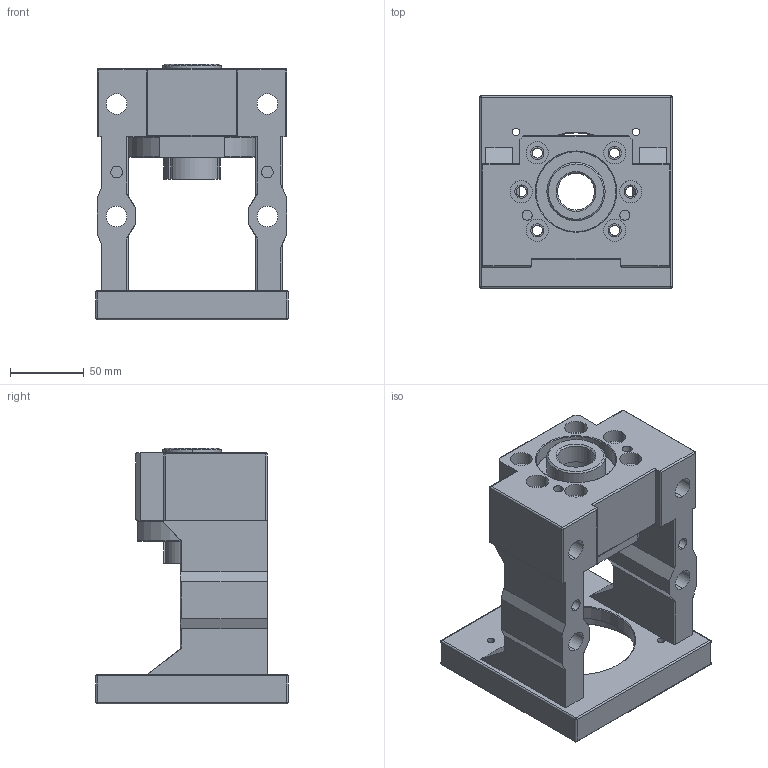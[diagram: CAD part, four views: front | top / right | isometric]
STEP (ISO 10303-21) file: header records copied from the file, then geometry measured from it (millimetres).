
FILE_DESCRIPTION((''),'2;1');
FILE_NAME('M100YP-SBK25-C__ASM','2019-09-26T',('ASUS'),(''),'PRO/ENGINEER BY PARAMETRIC TECHNOLOGY CORPORATION, 2010280','PRO/ENGINEER BY PARAMETRIC TECHNOLOGY CORPORATION, 2010280','');
FILE_SCHEMA(('CONFIG_CONTROL_DESIGN'));
Length unit declared in the file: millimetre
Products named in the file (6): PRT0004; PRT0005; PRT0006; PRT0008; M100YP-SBK25-C_____________ASM; M100YP-SBK25-C__ASM
Assembly tree (6 placements, depth 3):
  M100YP-SBK25-C__ASM
    M100YP-SBK25-C_____________ASM
      PRT0004  x2
      PRT0005
      PRT0006
      PRT0008
Bounding box: 130 x 130 x 173 mm (x, y, z)
Volume: 894696.2 mm3; surface area: 161946.6 mm2
Topology: 5 solids, 5 shells, 284 faces, 710 edges, 440 vertices
Faces by surface type: cylinder 146, plane 87, cone 33, sphere 12, torus 4, extrusion 2
Entity records: 8506 total; most frequent: CARTESIAN_POINT 1686, DIRECTION 1462, ORIENTED_EDGE 1340, EDGE_CURVE 670, AXIS2_PLACEMENT_3D 557, VERTEX_POINT 424, VECTOR 348, LINE 346
